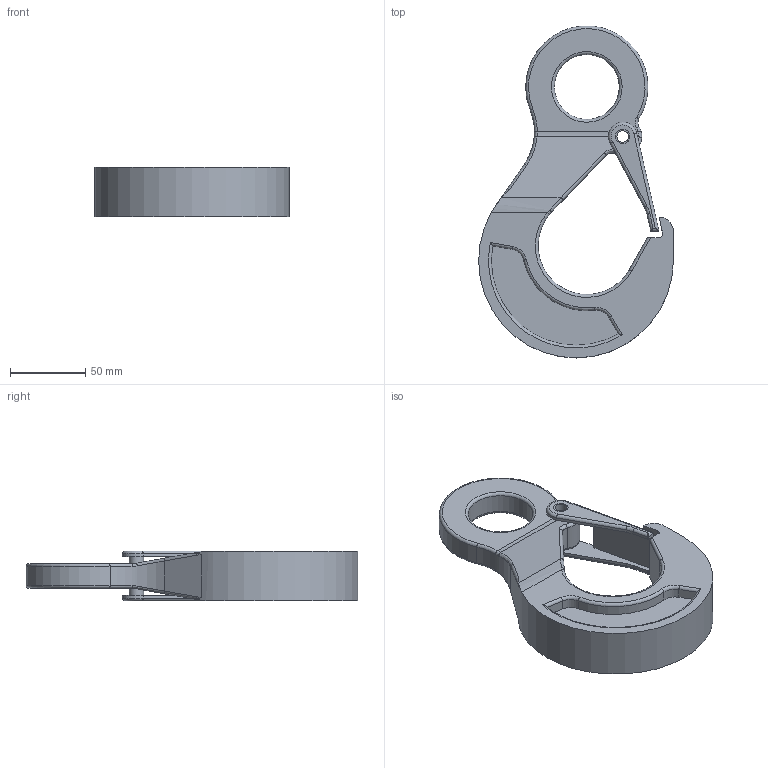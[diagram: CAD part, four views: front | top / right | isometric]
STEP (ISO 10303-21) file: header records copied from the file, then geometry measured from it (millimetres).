
FILE_DESCRIPTION(/* description */ (''),/* implementation_level */ '2;1');
FILE_NAME(/* name */ 'Kranhaken_ohne_Firmenlogo.stp',/* time_stamp */ '2023-01-03T14:00:24+01:00',/* author */ ('GUTZEIT-PAMELA'),/* organization */ ('SMS group'),/* preprocessor_version */ 'ST-DEVELOPER v19.2',/* originating_system */ 'Autodesk Inventor 2023',/* authorisation */ '');
FILE_SCHEMA (('AUTOMOTIVE_DESIGN { 1 0 10303 214 3 1 1 }'));
Length unit declared in the file: millimetre
Products named in the file (4): 11307021_CLOSED; CAX_13SF_1; CAX_13SF_CLOSED__2; KranhakenBauteil3
Assembly tree (3 placements, depth 2):
  11307021_CLOSED
    CAX_13SF_1
    CAX_13SF_CLOSED__2
    KranhakenBauteil3
Bounding box: 129 x 219.87 x 33 mm (x, y, z)
Volume: 327098.7 mm3; surface area: 60128.3 mm2
Topology: 2 solids, 2 shells, 130 faces, 324 edges, 212 vertices
Faces by surface type: cylinder 54, plane 32, torus 24, bspline 20
Full cylindrical faces by diameter (mm): 7.6 x1, 9.5 x4, 43 x1
Entity records: 6414 total; most frequent: CARTESIAN_POINT 3229, DIRECTION 666, ORIENTED_EDGE 624, EDGE_CURVE 312, AXIS2_PLACEMENT_3D 273, VERTEX_POINT 188, EDGE_LOOP 140, CIRCLE 132
